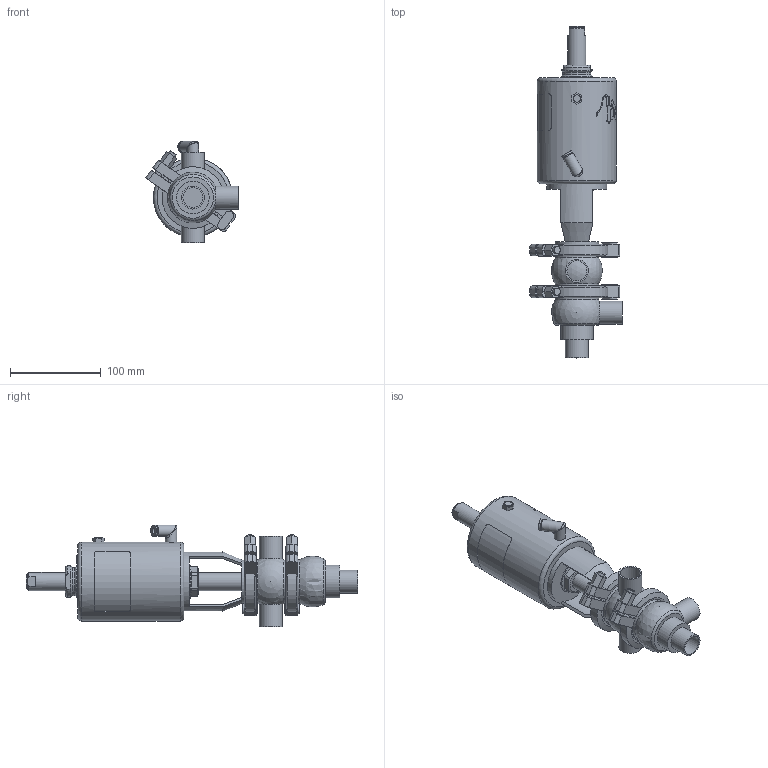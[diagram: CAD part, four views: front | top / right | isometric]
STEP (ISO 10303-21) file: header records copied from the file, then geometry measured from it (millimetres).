
FILE_DESCRIPTION (( 'STEP AP214' ), '1' );
FILE_NAME ('INNOVA K E W OD 1 T1 AS NC_10.240.16.0022.STEP', '2024-08-06T10:52:48', ( '' ), ( '' ), 'SwSTEP 2.0', 'SolidWorks 2023', '' );
FILE_SCHEMA (( 'AUTOMOTIVE_DESIGN' ));
Length unit declared in the file: millimetre
Products named in the file (6): 10.240.15.0010_DN 025; INNOVA K E W OD 1 T1 AS NC_10.240.16.0022; 10.240.15.0014_T1 AS P0; 10.240.15.0007_OD 1"; 10.240.15.0001_DN 025; 10.240.15.0002_OD 1"
Assembly tree (6 placements, depth 2):
  INNOVA K E W OD 1 T1 AS NC_10.240.16.0022
    10.240.15.0007_OD 1"
    10.240.15.0002_OD 1"
    10.240.15.0010_DN 025
    10.240.15.0014_T1 AS P0
    10.240.15.0001_DN 025  x2
Bounding box: 101.94 x 366 x 112.25 mm (x, y, z)
Volume: 1062454.9 mm3; surface area: 145238.3 mm2
Topology: 6 solids, 6 shells, 406 faces, 1067 edges, 697 vertices
Faces by surface type: plane 194, cylinder 92, bspline 80, cone 30, sphere 5, torus 5
Full cylindrical faces by diameter (mm): 6.15 x1, 8 x5, 8.5 x1, 10.5 x1, 12.5 x3, 16 x1, 20 x2, 22.1 x4, 25.4 x4, 31 x1, 34.5 x2, 36 x1, 36.5 x1, 48 x4, 59.7 x4, 66 x1, 87 x1
Entity records: 19821 total; most frequent: CARTESIAN_POINT 10342, ORIENTED_EDGE 1654, DIRECTION 1291, EDGE_CURVE 827, VERTEX_POINT 571, AXIS2_PLACEMENT_3D 497, EDGE_LOOP 434, FACE_OUTER_BOUND 390
